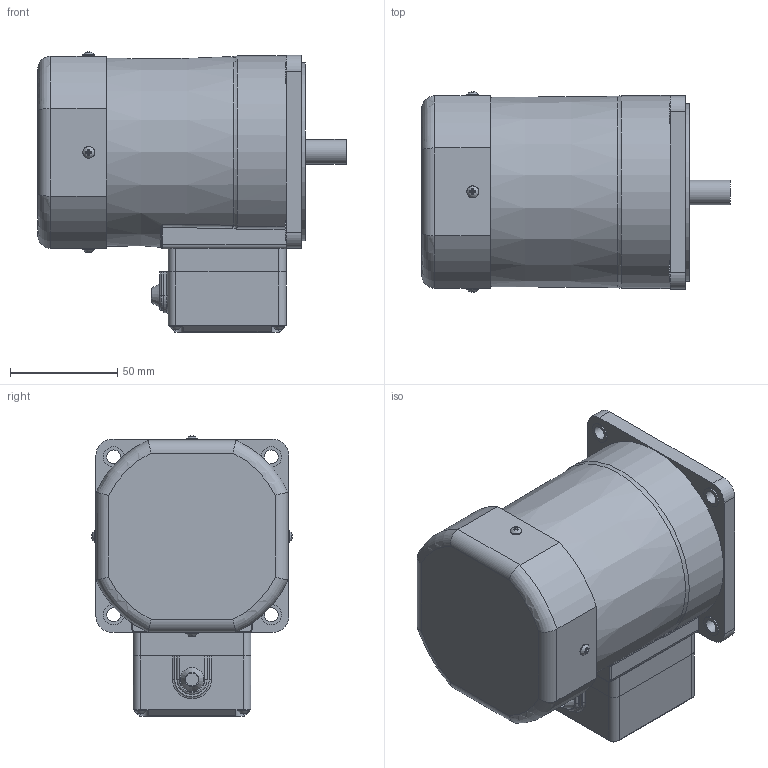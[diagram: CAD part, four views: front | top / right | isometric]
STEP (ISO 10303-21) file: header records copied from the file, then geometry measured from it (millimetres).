
FILE_DESCRIPTION((''),'2;1');
FILE_NAME('D:\김성묵\업무폴더\개발 파일\프로젝트 개발 AB등급\AC표준형 개발자료\90각 이하 표준형 개발\도면작성 자료\3D 도면\홈페이지용 3D 파일\60W MOTOR\T1 BOX TYPE\S9(I,R)60G-T1.stp','2015-03-26T18:34:28',('smkim'),(''),'Autodesk Inventor 2012','Autodesk Inventor 2012','');
FILE_SCHEMA(('AUTOMOTIVE_DESIGN { 1 0 10303 214 1 1 1 1 }'));
Length unit declared in the file: millimetre
Products named in the file (9): S9(I,R)60G-T1; S9I60GㅁTCE; S9_60_HOUSING A_접지 삭제ipt; FAN COVER; 552300620; 80 각 T1 BOX_CORD BUSH; 25W T1 BOX CORD BUSH G; 80각 T1 BOX
Assembly tree (15 placements, depth 3):
  S9(I,R)60G-T1
    S9I60GㅁTCE
    S9_60_HOUSING A_접지 삭제ipt
    FAN COVER
      FAN COVER
      552300620  x4
    80 각 T1 BOX_CORD BUSH
      25W T1 BOX CORD BUSH G
      80각 T1 BOX
    552300620  x4
Bounding box: 143.8 x 93.49 x 130.55 mm (x, y, z)
Volume: 1011245.9 mm3; surface area: 108610.7 mm2
Topology: 14 solids, 14 shells, 377 faces, 899 edges, 575 vertices
Faces by surface type: plane 216, cylinder 93, torus 27, bspline 26, cone 15
Full cylindrical faces by diameter (mm): 3 x12, 3.5 x4, 5.6 x8, 6.5 x4, 8 x1, 9.5 x4, 11.5 x1, 40 x1, 83 x1, 86 x1
Entity records: 7463 total; most frequent: CARTESIAN_POINT 1978, DIRECTION 1103, ORIENTED_EDGE 1016, EDGE_CURVE 508, AXIS2_PLACEMENT_3D 422, VERTEX_POINT 348, EDGE_LOOP 296, VECTOR 259
